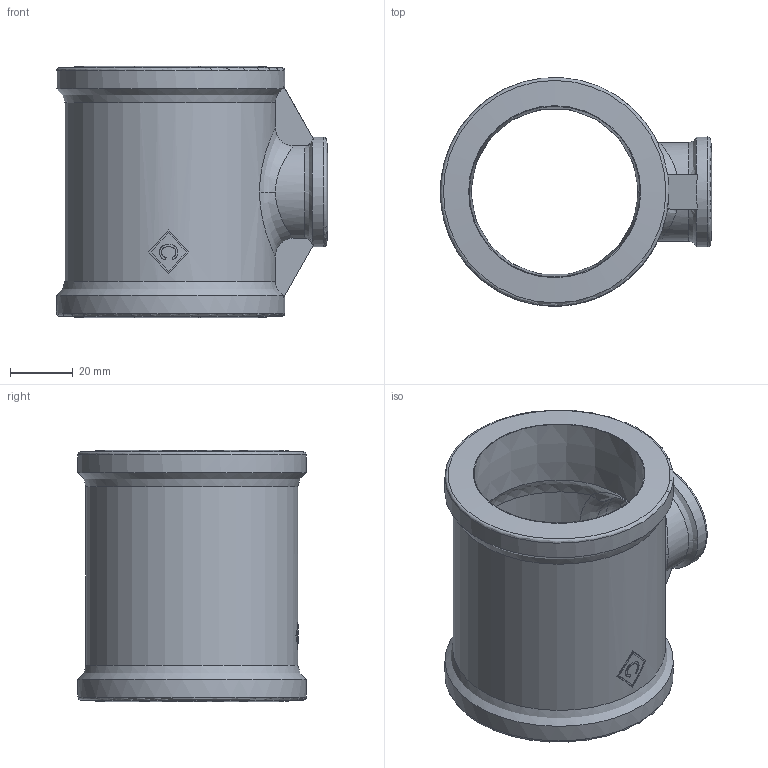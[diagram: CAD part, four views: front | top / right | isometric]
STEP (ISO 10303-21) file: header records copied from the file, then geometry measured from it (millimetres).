
FILE_DESCRIPTION((''),'2;1');
FILE_NAME('P:\Fastrack\53909_CRANE\Crane\Fig.161 Tee\New 2.00 inch\161-2.00x0.75.stp','2009-09-16T16:14:03',('btaylor'),(''),'Autodesk Inventor 2008','Autodesk Inventor 2008','');
FILE_SCHEMA(('AUTOMOTIVE_DESIGN { 1 0 10303 214 1 1 1 1 }'));
Length unit declared in the file: millimetre
Products named in the file (1): 161-2.00x0.75
Bounding box: 86.4 x 72.75 x 80 mm (x, y, z)
Volume: 106530.5 mm3; surface area: 38224.9 mm2
Topology: 1 solids, 1 shells, 61 faces, 167 edges, 110 vertices
Faces by surface type: bspline 22, plane 19, cylinder 11, cone 6, torus 3
Full cylindrical faces by diameter (mm): 25.9 x1, 35 x1, 72.8 x2
Entity records: 3564 total; most frequent: CARTESIAN_POINT 2207, ORIENTED_EDGE 286, DIRECTION 228, EDGE_CURVE 143, VERTEX_POINT 102, AXIS2_PLACEMENT_3D 95, EDGE_LOOP 83, FACE_OUTER_BOUND 61
